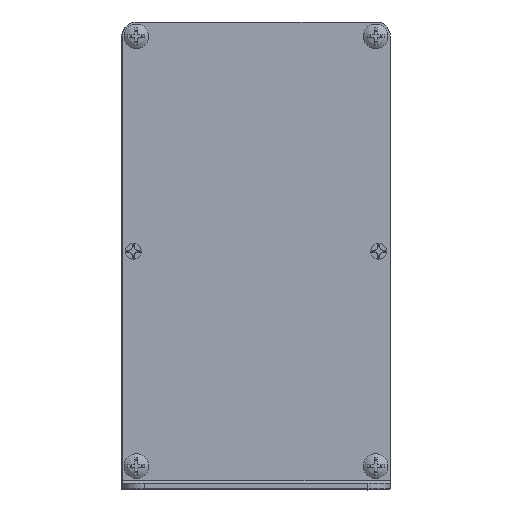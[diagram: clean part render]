
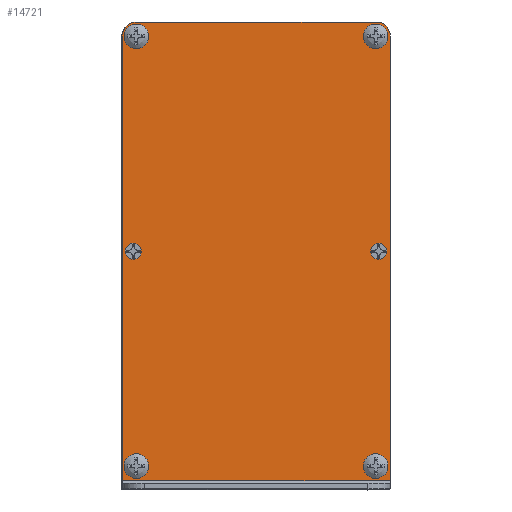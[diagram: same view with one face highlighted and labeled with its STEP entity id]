
A CAD part, top view. The second image highlights one B-rep face of the part: STEP entity #14721.
In plain terms, the highlighted planar face has unit normal (0, 0, 1).
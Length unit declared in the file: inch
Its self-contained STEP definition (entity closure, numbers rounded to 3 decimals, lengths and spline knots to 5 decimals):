
#163=FACE_BOUND('',#1896,.T.);
#164=FACE_BOUND('',#1897,.T.);
#165=FACE_BOUND('',#1898,.T.);
#166=FACE_BOUND('',#1899,.T.);
#167=FACE_BOUND('',#1900,.T.);
#168=FACE_BOUND('',#1901,.T.);
#1095=FACE_OUTER_BOUND('',#1895,.T.);
#1895=EDGE_LOOP('',(#12144,#12145,#12146,#12147,#12148,#12149));
#1896=EDGE_LOOP('',(#12150));
#1897=EDGE_LOOP('',(#12151));
#1898=EDGE_LOOP('',(#12152,#12153));
#1899=EDGE_LOOP('',(#12154,#12155));
#1900=EDGE_LOOP('',(#12156,#12157));
#1901=EDGE_LOOP('',(#12158,#12159));
#2611=CIRCLE('',#15633,0.08268);
#2647=CIRCLE('',#15694,0.08268);
#2752=CIRCLE('',#15930,0.17323);
#2753=CIRCLE('',#15931,0.17323);
#2772=CIRCLE('',#15972,0.17323);
#2773=CIRCLE('',#15973,0.17323);
#2789=CIRCLE('',#16011,0.17323);
#2790=CIRCLE('',#16012,0.17323);
#2806=CIRCLE('',#16050,0.17323);
#2807=CIRCLE('',#16051,0.17323);
#2929=CIRCLE('',#16200,0.19685);
#2931=CIRCLE('',#16204,0.19685);
#3881=LINE('',#26574,#5101);
#3888=LINE('',#26583,#5108);
#3889=LINE('',#26585,#5109);
#3890=LINE('',#26587,#5110);
#5101=VECTOR('',#19800,0.3937);
#5108=VECTOR('',#19809,0.3937);
#5109=VECTOR('',#19810,0.3937);
#5110=VECTOR('',#19811,0.3937);
#6059=VERTEX_POINT('',#23086);
#6115=VERTEX_POINT('',#23273);
#6391=VERTEX_POINT('',#25011);
#6392=VERTEX_POINT('',#25012);
#6438=VERTEX_POINT('',#25330);
#6439=VERTEX_POINT('',#25331);
#6483=VERTEX_POINT('',#25645);
#6484=VERTEX_POINT('',#25646);
#6528=VERTEX_POINT('',#25960);
#6529=VERTEX_POINT('',#25961);
#6805=VERTEX_POINT('',#26564);
#6806=VERTEX_POINT('',#26565);
#6809=VERTEX_POINT('',#26573);
#6810=VERTEX_POINT('',#26582);
#6811=VERTEX_POINT('',#26584);
#6812=VERTEX_POINT('',#26586);
#7709=EDGE_CURVE('',#6059,#6059,#2611,.T.);
#7794=EDGE_CURVE('',#6115,#6115,#2647,.T.);
#8204=EDGE_CURVE('',#6391,#6392,#2752,.T.);
#8205=EDGE_CURVE('',#6392,#6391,#2753,.T.);
#8273=EDGE_CURVE('',#6438,#6439,#2772,.T.);
#8274=EDGE_CURVE('',#6439,#6438,#2773,.T.);
#8340=EDGE_CURVE('',#6483,#6484,#2789,.T.);
#8341=EDGE_CURVE('',#6484,#6483,#2790,.T.);
#8407=EDGE_CURVE('',#6528,#6529,#2806,.T.);
#8408=EDGE_CURVE('',#6529,#6528,#2807,.T.);
#8707=EDGE_CURVE('',#6805,#6806,#2929,.T.);
#8711=EDGE_CURVE('',#6806,#6809,#3881,.T.);
#8718=EDGE_CURVE('',#6805,#6810,#3888,.T.);
#8719=EDGE_CURVE('',#6810,#6811,#3889,.T.);
#8720=EDGE_CURVE('',#6812,#6811,#3890,.T.);
#8721=EDGE_CURVE('',#6809,#6812,#2931,.T.);
#12144=ORIENTED_EDGE('',*,*,#8707,.F.);
#12145=ORIENTED_EDGE('',*,*,#8718,.T.);
#12146=ORIENTED_EDGE('',*,*,#8719,.T.);
#12147=ORIENTED_EDGE('',*,*,#8720,.F.);
#12148=ORIENTED_EDGE('',*,*,#8721,.F.);
#12149=ORIENTED_EDGE('',*,*,#8711,.F.);
#12150=ORIENTED_EDGE('',*,*,#7709,.T.);
#12151=ORIENTED_EDGE('',*,*,#7794,.T.);
#12152=ORIENTED_EDGE('',*,*,#8204,.T.);
#12153=ORIENTED_EDGE('',*,*,#8205,.T.);
#12154=ORIENTED_EDGE('',*,*,#8273,.T.);
#12155=ORIENTED_EDGE('',*,*,#8274,.T.);
#12156=ORIENTED_EDGE('',*,*,#8340,.T.);
#12157=ORIENTED_EDGE('',*,*,#8341,.T.);
#12158=ORIENTED_EDGE('',*,*,#8407,.T.);
#12159=ORIENTED_EDGE('',*,*,#8408,.T.);
#13721=PLANE('',#16203);
#14721=ADVANCED_FACE('',(#1095,#163,#164,#165,#166,#167,#168),#13721,.T.);
#15633=AXIS2_PLACEMENT_3D('',#23087,#18139,#18140);
#15694=AXIS2_PLACEMENT_3D('',#23274,#18301,#18302);
#15930=AXIS2_PLACEMENT_3D('',#25013,#18980,#18981);
#15931=AXIS2_PLACEMENT_3D('',#25014,#18982,#18983);
#15972=AXIS2_PLACEMENT_3D('',#25332,#19095,#19096);
#15973=AXIS2_PLACEMENT_3D('',#25333,#19097,#19098);
#16011=AXIS2_PLACEMENT_3D('',#25647,#19205,#19206);
#16012=AXIS2_PLACEMENT_3D('',#25648,#19207,#19208);
#16050=AXIS2_PLACEMENT_3D('',#25962,#19315,#19316);
#16051=AXIS2_PLACEMENT_3D('',#25963,#19317,#19318);
#16200=AXIS2_PLACEMENT_3D('',#26566,#19792,#19793);
#16203=AXIS2_PLACEMENT_3D('',#26581,#19807,#19808);
#16204=AXIS2_PLACEMENT_3D('',#26588,#19812,#19813);
#18139=DIRECTION('center_axis',(0.,0.,-1.));
#18140=DIRECTION('ref_axis',(1.,0.,0.));
#18301=DIRECTION('center_axis',(0.,0.,-1.));
#18302=DIRECTION('ref_axis',(1.,0.,0.));
#18980=DIRECTION('center_axis',(0.,0.,-1.));
#18981=DIRECTION('ref_axis',(1.,0.,0.));
#18982=DIRECTION('center_axis',(0.,0.,-1.));
#18983=DIRECTION('ref_axis',(1.,0.,0.));
#19095=DIRECTION('center_axis',(0.,0.,-1.));
#19096=DIRECTION('ref_axis',(1.,0.,0.));
#19097=DIRECTION('center_axis',(0.,0.,-1.));
#19098=DIRECTION('ref_axis',(1.,0.,0.));
#19205=DIRECTION('center_axis',(0.,0.,-1.));
#19206=DIRECTION('ref_axis',(1.,0.,0.));
#19207=DIRECTION('center_axis',(0.,0.,-1.));
#19208=DIRECTION('ref_axis',(1.,0.,0.));
#19315=DIRECTION('center_axis',(0.,0.,-1.));
#19316=DIRECTION('ref_axis',(1.,0.,0.));
#19317=DIRECTION('center_axis',(0.,0.,-1.));
#19318=DIRECTION('ref_axis',(1.,0.,0.));
#19792=DIRECTION('center_axis',(0.,0.,-1.));
#19793=DIRECTION('ref_axis',(-0.707,0.707,0.));
#19800=DIRECTION('',(1.,0.,0.));
#19807=DIRECTION('center_axis',(0.,0.,1.));
#19808=DIRECTION('ref_axis',(0.,-1.,0.));
#19809=DIRECTION('',(0.,-1.,0.));
#19810=DIRECTION('',(1.,0.,0.));
#19811=DIRECTION('',(0.,-1.,0.));
#19812=DIRECTION('center_axis',(0.,0.,-1.));
#19813=DIRECTION('ref_axis',(0.707,0.707,0.));
#23086=CARTESIAN_POINT('',(1.14461,3.30272,7.75591));
#23087=CARTESIAN_POINT('Origin',(1.22729,3.30272,7.75591));
#23273=CARTESIAN_POINT('',(4.58947,3.30272,7.75591));
#23274=CARTESIAN_POINT('Origin',(4.67214,3.30272,7.75591));
#25011=CARTESIAN_POINT('',(1.44444,0.28761,7.75591));
#25012=CARTESIAN_POINT('',(1.09799,0.28761,7.75591));
#25013=CARTESIAN_POINT('Origin',(1.27122,0.28761,7.75591));
#25014=CARTESIAN_POINT('Origin',(1.27122,0.28761,7.75591));
#25330=CARTESIAN_POINT('',(4.80144,0.28761,7.75591));
#25331=CARTESIAN_POINT('',(4.45499,0.28761,7.75591));
#25332=CARTESIAN_POINT('Origin',(4.62821,0.28761,7.75591));
#25333=CARTESIAN_POINT('Origin',(4.62821,0.28761,7.75591));
#25645=CARTESIAN_POINT('',(4.80144,6.31783,7.75591));
#25646=CARTESIAN_POINT('',(4.45499,6.31783,7.75591));
#25647=CARTESIAN_POINT('Origin',(4.62821,6.31783,7.75591));
#25648=CARTESIAN_POINT('Origin',(4.62821,6.31783,7.75591));
#25960=CARTESIAN_POINT('',(1.44444,6.31783,7.75591));
#25961=CARTESIAN_POINT('',(1.09799,6.31783,7.75591));
#25962=CARTESIAN_POINT('Origin',(1.27122,6.31783,7.75591));
#25963=CARTESIAN_POINT('Origin',(1.27122,6.31783,7.75591));
#26564=CARTESIAN_POINT('',(1.07436,6.3224,7.75591));
#26565=CARTESIAN_POINT('',(1.27122,6.51925,7.75591));
#26566=CARTESIAN_POINT('Origin',(1.27122,6.3224,7.75591));
#26573=CARTESIAN_POINT('',(4.63736,6.51925,7.75591));
#26574=CARTESIAN_POINT('',(1.07436,6.51925,7.75591));
#26581=CARTESIAN_POINT('Origin',(1.07436,6.51925,7.75591));
#26582=CARTESIAN_POINT('',(1.07436,0.08618,7.75591));
#26583=CARTESIAN_POINT('',(1.07436,6.51925,7.75591));
#26584=CARTESIAN_POINT('',(4.83421,0.08618,7.75591));
#26585=CARTESIAN_POINT('',(1.07436,0.08618,7.75591));
#26586=CARTESIAN_POINT('',(4.83421,6.3224,7.75591));
#26587=CARTESIAN_POINT('',(4.83421,6.51925,7.75591));
#26588=CARTESIAN_POINT('Origin',(4.63736,6.3224,7.75591));
